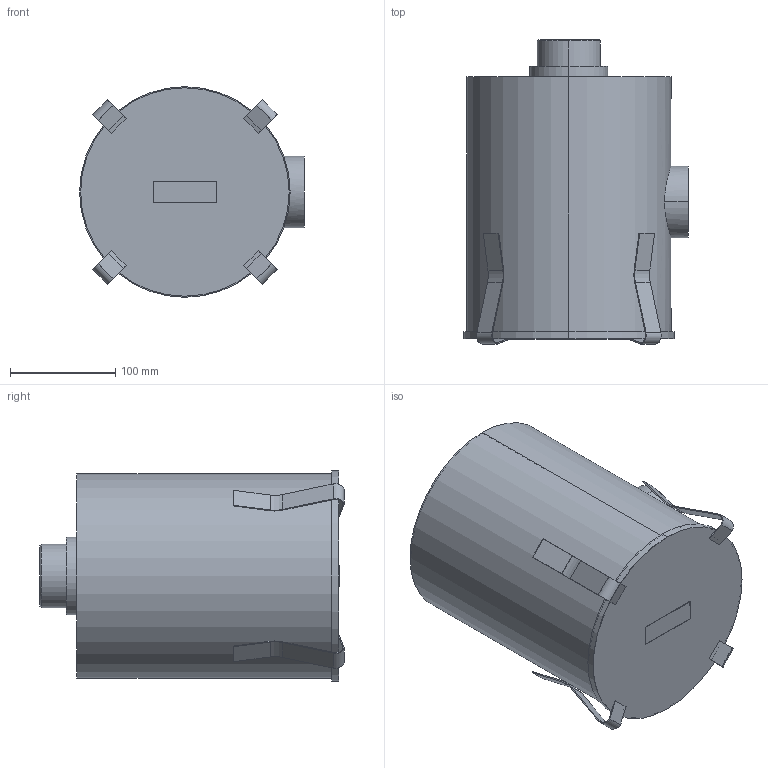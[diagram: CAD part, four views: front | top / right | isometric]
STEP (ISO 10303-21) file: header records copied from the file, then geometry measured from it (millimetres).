
FILE_DESCRIPTION((''),'2;1');
FILE_NAME('95165','2013-04-25T',('91717'),('Copyright by Leybold GmbH'),'PRO/ENGINEER BY PARAMETRIC TECHNOLOGY CORPORATION, 2010430','PRO/ENGINEER BY PARAMETRIC TECHNOLOGY CORPORATION, 2010430','');
FILE_SCHEMA(('AUTOMOTIVE_DESIGN { 1 0 10303 214 1 1 1 1 }'));
Length unit declared in the file: millimetre
Products named in the file (1): 95165
Bounding box: 213.5 x 288.82 x 200 mm (x, y, z)
Volume: 260121.3 mm3; surface area: 467265.6 mm2
Topology: 1 solids, 1 shells, 96 faces, 232 edges, 154 vertices
Faces by surface type: plane 52, cylinder 42, cone 2
Entity records: 3160 total; most frequent: CARTESIAN_POINT 628, DIRECTION 490, ORIENTED_EDGE 464, EDGE_CURVE 232, AXIS2_PLACEMENT_3D 170, VERTEX_POINT 154, VECTOR 150, LINE 150
